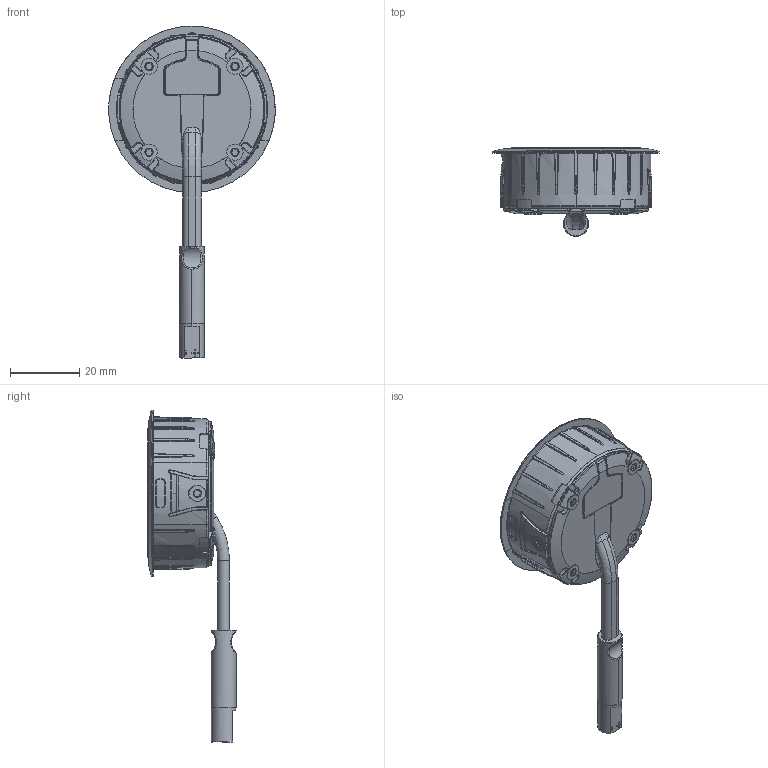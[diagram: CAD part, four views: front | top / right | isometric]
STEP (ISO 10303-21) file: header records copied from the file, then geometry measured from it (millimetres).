
FILE_DESCRIPTION (( 'STEP AP203' ), '1' );
FILE_NAME ('ARC_Wireless_DC_Block.STEP', '2025-01-30T15:33:29', ( '' ), ( '' ), 'SwSTEP 2.0', 'SolidWorks 2024', '' );
FILE_SCHEMA (( 'CONFIG_CONTROL_DESIGN' ));
Length unit declared in the file: millimetre
Products named in the file (1): ARC_Wireless_DC_Block
Bounding box: 47.99 x 25.4 x 95.68 mm (x, y, z)
Volume: 28904.3 mm3; surface area: 7701.7 mm2
Topology: 1 solids, 1 shells, 1345 faces, 3496 edges, 2156 vertices
Faces by surface type: bspline 475, cylinder 268, plane 233, torus 177, cone 148, sphere 44
Entity records: 53664 total; most frequent: CARTESIAN_POINT 24777, ORIENTED_EDGE 6942, DIRECTION 5091, EDGE_CURVE 3471, AXIS2_PLACEMENT_3D 2228, VERTEX_POINT 2141, EDGE_LOOP 1374, CIRCLE 1357
